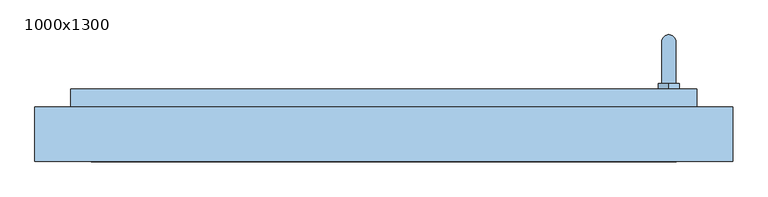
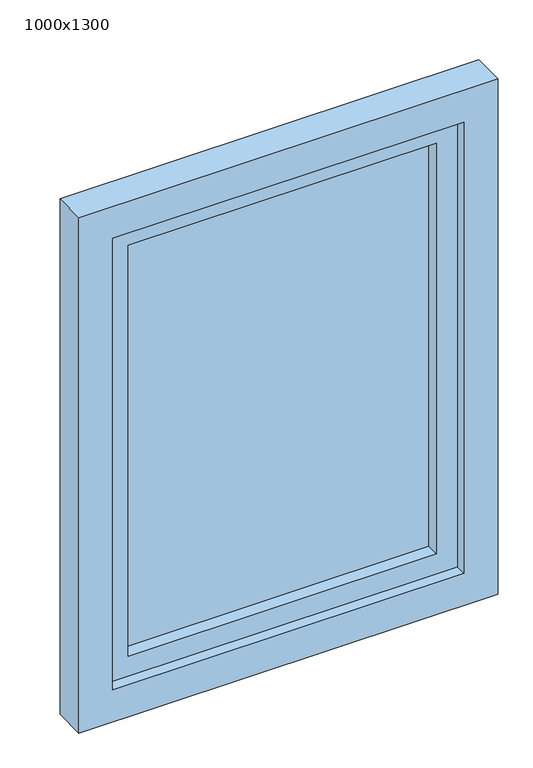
"""IFC4 building model written with IfcOpenShell, lengths in millimetres: window geometry, Jednokridlove rovne : 1000x1300."""

from ifc_helpers import new_model, si_unit, point, frame, frame_2d, origin, place, context, project, spatial, polyline, circle_curve, ellipse_curve, trimmed, segment, composite_curve, outline, extrude, faceted_brep, source, transform, mapped, element, save
from ifc_brep_helpers import plane_surface, cylinder_surface, advanced_brep


def window_1000x1300_da663b31(model_context):
    return source(origin(), model_context, "Body", "SolidModel", [
        advanced_brep(
        [(418.5, 37.0, 1550.0), (398.5, 37.0, 1550.0), (398.5, 97.0, 1550.0), (418.5, 97.0, 1550.0), (418.5, 97.0, 1425.0), (398.5, 97.0, 1425.0)],
        [
            (0, 1, circle_curve(frame((408.5, 37.0, 1550.0), z_axis=(0.0, -1.0, 0.0), x_axis=(-1.0, 0.0, 0.0)), 10.0)),
            (1, 0, circle_curve(frame((408.5, 37.0, 1550.0), z_axis=(0.0, -1.0, 0.0), x_axis=(-1.0, 0.0, 0.0)), 10.0)),
            (1, 2),
            (2, 3, ellipse_curve(frame((408.5, 97.0, 1550.0), z_axis=(0.0, -0.7071067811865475, 0.7071067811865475), x_axis=(0.0, -0.7071067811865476, -0.7071067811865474)), 14.1421356, 10.0)),
            (3, 0),
            (3, 2, ellipse_curve(frame((408.5, 97.0, 1550.0), z_axis=(0.0, -0.7071067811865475, 0.7071067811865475), x_axis=(0.0, -0.7071067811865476, -0.7071067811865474)), 14.1421356, 10.0)),
            (4, 5, circle_curve(frame((408.5, 97.0, 1425.0), z_axis=(0.0, 0.0, -1.0), x_axis=(-1.0, 0.0, 0.0)), 10.0)),
            (5, 4, circle_curve(frame((408.5, 97.0, 1425.0), z_axis=(0.0, 0.0, -1.0), x_axis=(-1.0, 0.0, 0.0)), 10.0)),
            (2, 5),
            (4, 3),
        ],
        [
            plane_surface(frame((408.5, 37.0, 1550.0), z_axis=(0.0, -1.0, 0.0), x_axis=(1.0, 0.0, 0.0))),
            cylinder_surface(frame((408.5, 37.0, 1550.0), z_axis=(0.0, -1.0, 0.0), x_axis=(-1.0, 0.0, 0.0)), 10.0),
            plane_surface(frame((408.5, 97.0, 1425.0), z_axis=(0.0, 0.0, -1.0), x_axis=(1.0, 0.0, 0.0))),
            cylinder_surface(frame((408.5, 97.0, 1550.0), z_axis=(0.0, 0.0, 1.0), x_axis=(-1.0, 0.0, 0.0)), 10.0),
        ],
        [
            (0, [[1, 2]]),
            (1, [[3, 4, 5, -2]]),
            (1, [[-5, 6, -3, -1]]),
            (2, [[7, 8]]),
            (3, [[9, -7, 10, -4]]),
            (3, [[-10, -8, -9, -6]]),
        ],
    ),
        extrude(outline(composite_curve([segment(trimmed(circle_curve(frame_2d((1560.0, 408.5)), 15.0), [point((1560.0, 423.5))], [point((1575.0, 408.5))], False, "CARTESIAN"), True, "CONTINUOUS"), segment(trimmed(circle_curve(frame_2d((1560.0, 408.5)), 15.0), [point((1575.0, 408.5))], [point((1560.0, 393.5))], False, "CARTESIAN"), True, "CONTINUOUS"), segment(polyline([(1560.0, 393.5), (1540.0, 393.5)]), True, "CONTINUOUS"), segment(trimmed(circle_curve(frame_2d((1540.0, 408.5)), 15.0), [point((1540.0, 393.5))], [point((1525.0, 408.5))], False, "CARTESIAN"), True, "CONTINUOUS"), segment(trimmed(circle_curve(frame_2d((1540.0, 408.5)), 15.0), [point((1525.0, 408.5))], [point((1540.0, 423.5))], False, "CARTESIAN"), True, "CONTINUOUS"), segment(polyline([(1540.0, 423.5), (1560.0, 423.5)]), True, "CONTINUOUS")], self_intersect=False)), frame((0.0, 29.0, 0.0), z_axis=(0.0, 1.0, 0.0), x_axis=(0.0, 0.0, 1.0)), (0.0, 0.0, 1.0), 8.0),
        extrude(outline(polyline([(2200.0, -500.0), (900.0, -500.0), (900.0, 500.0), (2200.0, 500.0), (2200.0, -500.0)]), holes=[polyline([(981.0, -419.0), (2119.0, -419.0), (2119.0, 419.0), (981.0, 419.0), (981.0, -419.0)])]), frame((0.0, -75.0, 0.0), z_axis=(0.0, 1.0, 0.0), x_axis=(0.0, 0.0, 1.0)), (0.0, 0.0, 1.0), 78.0),
        extrude(outline(polyline([(368.0, -2.5), (368.0, -17.5), (-368.0, -17.5), (-368.0, -2.5), (368.0, -2.5)])), frame((0.0, 0.0, 1032.0), z_axis=(0.0, 0.0, 1.0), x_axis=(1.0, 0.0, 0.0)), (0.0, 0.0, 1.0), 1036.0),
        faceted_brep([(-419.0, -49.0, 981.0), (-419.0, -49.0, 2119.0), (-419.0, 3.0, 2119.0), (-419.0, 3.0, 981.0), (-368.0, 29.0, 1032.0), (-368.0, 29.0, 2068.0), (-368.0, -49.0, 2068.0), (-368.0, -49.0, 1032.0), (-449.0, 3.0, 951.0), (-449.0, 3.0, 2149.0), (-449.0, 29.0, 2149.0), (-449.0, 29.0, 951.0), (419.0, -49.0, 2119.0), (419.0, 3.0, 2119.0), (368.0, 29.0, 2068.0), (368.0, -49.0, 2068.0), (449.0, 3.0, 2149.0), (449.0, 29.0, 2149.0), (419.0, -49.0, 981.0), (419.0, 3.0, 981.0), (368.0, 29.0, 1032.0), (368.0, -49.0, 1032.0), (449.0, 3.0, 951.0), (449.0, 29.0, 951.0)], [[[0, 1, 2, 3]], [[4, 5, 6, 7]], [[8, 9, 10, 11]], [[1, 12, 13, 2]], [[5, 14, 15, 6]], [[9, 16, 17, 10]], [[12, 18, 19, 13]], [[14, 20, 21, 15]], [[16, 22, 23, 17]], [[18, 0, 3, 19]], [[1, 0, 18, 12], [7, 6, 15, 21]], [[20, 4, 7, 21]], [[11, 10, 17, 23], [5, 4, 20, 14]], [[22, 8, 11, 23]], [[9, 8, 22, 16], [3, 2, 13, 19]]]),
    ])


if __name__ == "__main__":
    model = new_model("IFC4")
    model_context = context("Model", 3, world=origin())
    ifc_project = project(units=[si_unit("LENGTHUNIT", "METRE", prefix="MILLI")], contexts=[model_context])
    site = spatial("IfcSite", under=ifc_project)
    building = spatial("IfcBuilding", under=site)
    placement = place(None, origin())
    window_1000x1300_shape = window_1000x1300_da663b31(model_context)
    element("IfcWindow", 1, ObjectType="Jednokridlove rovne : 1000x1300", at=placement, inside=building, context=model_context, shape_type="MappedRepresentation", body=[
        mapped(window_1000x1300_shape, transform((0.0, 0.0, 0.0), x_axis=(1.0, 0.0, 0.0), y_axis=(0.0, 1.0, 0.0), z_axis=(0.0, 0.0, 1.0))),
    ])
    save(model, "model.ifc")
